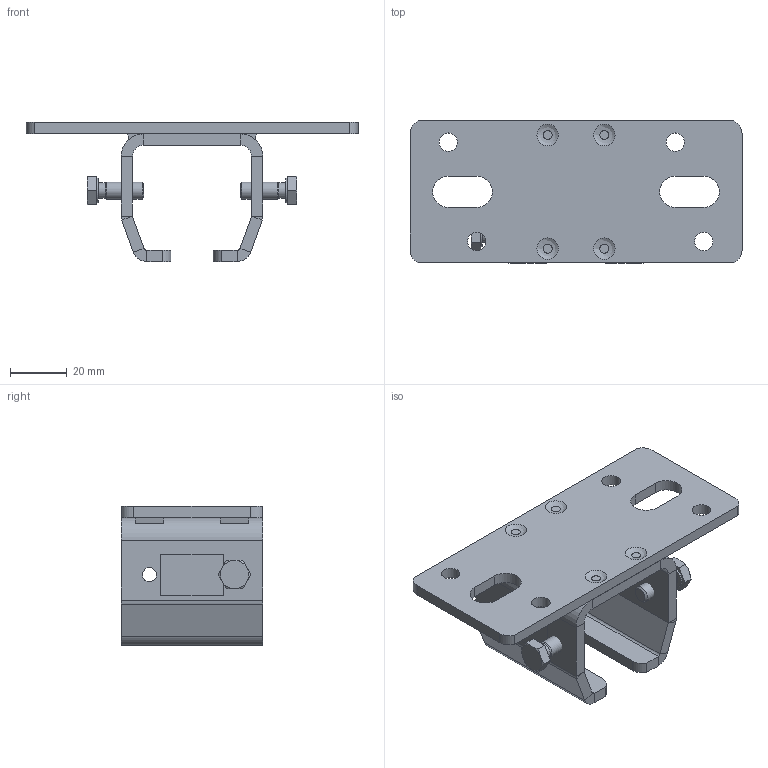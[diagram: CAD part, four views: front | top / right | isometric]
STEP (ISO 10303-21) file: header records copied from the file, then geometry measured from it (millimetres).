
FILE_DESCRIPTION(/* description */ ('Deckenbefestigung Nr.1'),/* implementation_level */ '2;1');
FILE_NAME(/* name */ 'Q:\sge-ma\Produktmanagement-STB\STB\Workspace\stp\010333035.stp',/* time_stamp */ '2015-07-09T13:52:50+02:00',/* author */ ('avschreier'),/* organization */ (''),/* preprocessor_version */ 'ST-DEVELOPER v15.6',/* originating_system */ 'Autodesk Inventor 2015',/* authorisation */ '');
FILE_SCHEMA (('CONFIG_CONTROL_DESIGN'));
Length unit declared in the file: millimetre
Products named in the file (5): 010333035_Schweißnähte; 337000251; 335140010; DIN_EN_ISO_4017-M6x16_en; 010333035
Bounding box: 117 x 50 x 49 mm (x, y, z)
Volume: 51248.3 mm3; surface area: 30556.3 mm2
Topology: 8 solids, 8 shells, 174 faces, 377 edges, 233 vertices
Faces by surface type: plane 106, cylinder 44, cone 16, bspline 8
Full cylindrical faces by diameter (mm): 4.917 x3, 5 x3, 5.459 x2, 6 x2, 6.5 x4, 8.7 x2
Entity records: 4403 total; most frequent: CARTESIAN_POINT 933, DIRECTION 720, ORIENTED_EDGE 634, EDGE_CURVE 317, AXIS2_PLACEMENT_3D 268, VERTEX_POINT 205, EDGE_LOOP 204, LINE 184
